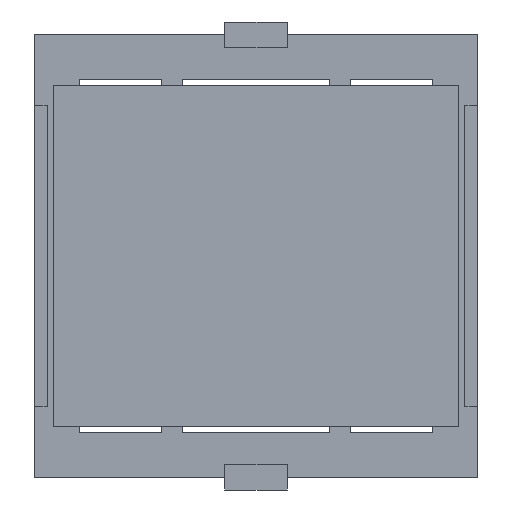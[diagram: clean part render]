
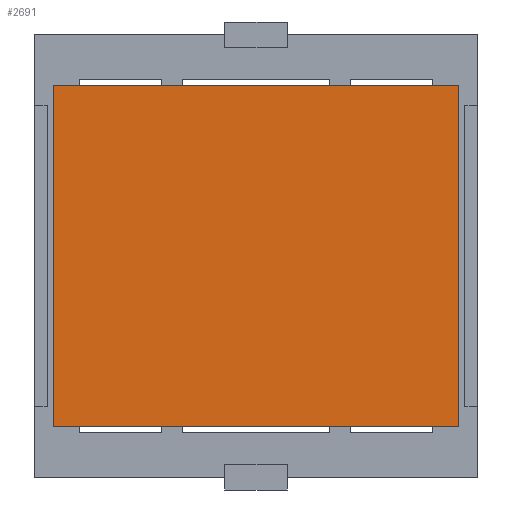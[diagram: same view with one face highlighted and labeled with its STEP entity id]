
A CAD part, front view. The second image highlights one B-rep face of the part: STEP entity #2691.
In plain terms, the highlighted planar face has unit normal (0, -1, 0).
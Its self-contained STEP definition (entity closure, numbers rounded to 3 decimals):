
#375 = DIRECTION ( 'NONE',  ( -1., 0., 0. ) ) ;
#668 = DIRECTION ( 'NONE',  ( 0., 1., 0. ) ) ;
#883 = DIRECTION ( 'NONE',  ( 0., 0., -1. ) ) ;
#894 = CARTESIAN_POINT ( 'NONE',  ( -16.129, -0.127, -13.589 ) ) ;
#911 = ORIENTED_EDGE ( 'NONE', *, *, #5140, .F. ) ;
#1274 = CARTESIAN_POINT ( 'NONE',  ( 16.129, -0.127, -13.589 ) ) ;
#1635 = CARTESIAN_POINT ( 'NONE',  ( -16.129, -0.127, 13.589 ) ) ;
#1747 = ORIENTED_EDGE ( 'NONE', *, *, #4272, .F. ) ;
#1785 = LINE ( 'NONE', #5915, #2756 ) ;
#1873 = AXIS2_PLACEMENT_3D ( 'NONE', #1635, #668, #3499 ) ;
#1964 = VERTEX_POINT ( 'NONE', #4219 ) ;
#2001 = VERTEX_POINT ( 'NONE', #1274 ) ;
#2135 = ORIENTED_EDGE ( 'NONE', *, *, #4484, .F. ) ;
#2632 = VERTEX_POINT ( 'NONE', #5778 ) ;
#2691 = ADVANCED_FACE ( 'NONE', ( #5848 ), #5293, .F. ) ;
#2756 = VECTOR ( 'NONE', #883, 1000. ) ;
#2835 = CARTESIAN_POINT ( 'NONE',  ( -16.129, -0.127, 13.589 ) ) ;
#3221 = DIRECTION ( 'NONE',  ( 0., 0., 1. ) ) ;
#3239 = LINE ( 'NONE', #894, #4254 ) ;
#3499 = DIRECTION ( 'NONE',  ( 0., 0., 1. ) ) ;
#3709 = ORIENTED_EDGE ( 'NONE', *, *, #5478, .F. ) ;
#4040 = LINE ( 'NONE', #5894, #5070 ) ;
#4161 = LINE ( 'NONE', #5675, #4731 ) ;
#4219 = CARTESIAN_POINT ( 'NONE',  ( 16.129, -0.127, 13.589 ) ) ;
#4254 = VECTOR ( 'NONE', #375, 1000. ) ;
#4272 = EDGE_CURVE ( 'NONE', #2632, #5094, #4161, .T. ) ;
#4484 = EDGE_CURVE ( 'NONE', #2001, #2632, #3239, .T. ) ;
#4673 = EDGE_LOOP ( 'NONE', ( #1747, #2135, #3709, #911 ) ) ;
#4731 = VECTOR ( 'NONE', #3221, 1000. ) ;
#5070 = VECTOR ( 'NONE', #5307, 1000. ) ;
#5094 = VERTEX_POINT ( 'NONE', #2835 ) ;
#5140 = EDGE_CURVE ( 'NONE', #5094, #1964, #4040, .T. ) ;
#5293 = PLANE ( 'NONE',  #1873 ) ;
#5307 = DIRECTION ( 'NONE',  ( 1., 0., 0. ) ) ;
#5478 = EDGE_CURVE ( 'NONE', #1964, #2001, #1785, .T. ) ;
#5675 = CARTESIAN_POINT ( 'NONE',  ( -16.129, -0.127, -13.589 ) ) ;
#5778 = CARTESIAN_POINT ( 'NONE',  ( -16.129, -0.127, -13.589 ) ) ;
#5848 = FACE_OUTER_BOUND ( 'NONE', #4673, .T. ) ;
#5894 = CARTESIAN_POINT ( 'NONE',  ( -16.129, -0.127, 13.589 ) ) ;
#5915 = CARTESIAN_POINT ( 'NONE',  ( 16.129, -0.127, -13.589 ) ) ;
